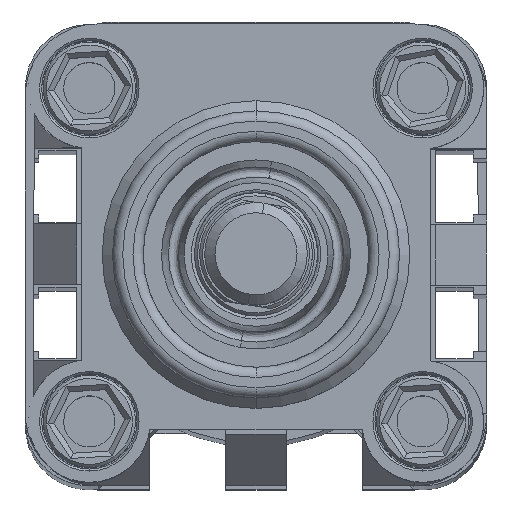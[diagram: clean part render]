
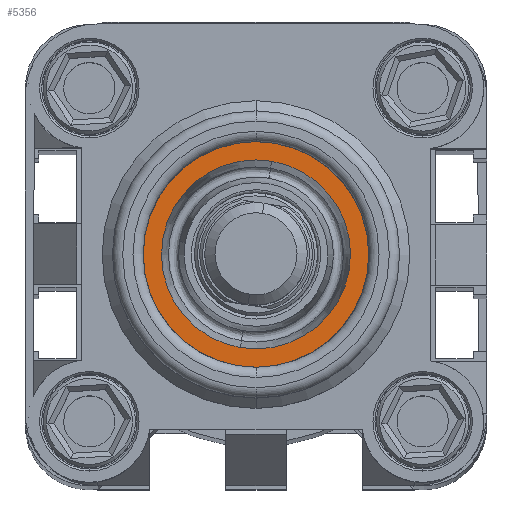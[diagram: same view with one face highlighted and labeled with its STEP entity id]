
A CAD part, top view. The second image highlights one B-rep face of the part: STEP entity #5356.
In plain terms, the highlighted planar face has unit normal (0, 0, 1) as drawn and (0, -1, 0) by its records, which use the part's own axes.
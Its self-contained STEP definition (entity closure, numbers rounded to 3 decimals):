
#134 = DIRECTION ( 'NONE',  ( 0., 0., 1. ) ) ;
#340 = CARTESIAN_POINT ( 'NONE',  ( 0., -10.4, -9.214 ) ) ;
#985 = CARTESIAN_POINT ( 'NONE',  ( 0., -10.4, 9.214 ) ) ;
#2066 = VERTEX_POINT ( 'NONE', #15269 ) ;
#2097 = DIRECTION ( 'NONE',  ( 0., 0., 1. ) ) ;
#2489 = CIRCLE ( 'NONE', #12558, 11. ) ;
#2905 = AXIS2_PLACEMENT_3D ( 'NONE', #18403, #7585, #14702 ) ;
#3972 = VERTEX_POINT ( 'NONE', #17938 ) ;
#4038 = DIRECTION ( 'NONE',  ( 0., 1., 0. ) ) ;
#4655 = CARTESIAN_POINT ( 'NONE',  ( -11., -10.4, 0. ) ) ;
#4687 = ORIENTED_EDGE ( 'NONE', *, *, #10721, .T. ) ;
#4784 = CARTESIAN_POINT ( 'NONE',  ( 0., -10.4, 0. ) ) ;
#5356 = ADVANCED_FACE ( 'NONE', ( #13244, #10700 ), #22734, .T. ) ;
#6172 = ORIENTED_EDGE ( 'NONE', *, *, #14440, .F. ) ;
#6302 = EDGE_CURVE ( 'NONE', #21400, #18273, #8632, .T. ) ;
#6720 = DIRECTION ( 'NONE',  ( 0., 1., 0. ) ) ;
#7327 = CIRCLE ( 'NONE', #2905, 9.214 ) ;
#7585 = DIRECTION ( 'NONE',  ( 0., 1., 0. ) ) ;
#7666 = AXIS2_PLACEMENT_3D ( 'NONE', #4655, #16247, #9033 ) ;
#7978 = AXIS2_PLACEMENT_3D ( 'NONE', #4784, #6720, #12068 ) ;
#8632 = CIRCLE ( 'NONE', #7978, 9.214 ) ;
#8711 = EDGE_LOOP ( 'NONE', ( #17084, #4687 ) ) ;
#9033 = DIRECTION ( 'NONE',  ( 0., 0., -1. ) ) ;
#9096 = ORIENTED_EDGE ( 'NONE', *, *, #18778, .F. ) ;
#10700 = FACE_OUTER_BOUND ( 'NONE', #17916, .T. ) ;
#10721 = EDGE_CURVE ( 'NONE', #18273, #21400, #7327, .T. ) ;
#11934 = AXIS2_PLACEMENT_3D ( 'NONE', #20222, #4038, #134 ) ;
#12068 = DIRECTION ( 'NONE',  ( 0., 0., -1. ) ) ;
#12558 = AXIS2_PLACEMENT_3D ( 'NONE', #20232, #18428, #2097 ) ;
#13244 = FACE_BOUND ( 'NONE', #8711, .T. ) ;
#14440 = EDGE_CURVE ( 'NONE', #3972, #2066, #21503, .T. ) ;
#14702 = DIRECTION ( 'NONE',  ( 0., 0., -1. ) ) ;
#15269 = CARTESIAN_POINT ( 'NONE',  ( 0., -10.4, -11. ) ) ;
#16247 = DIRECTION ( 'NONE',  ( 0., -1., 0. ) ) ;
#17084 = ORIENTED_EDGE ( 'NONE', *, *, #6302, .T. ) ;
#17916 = EDGE_LOOP ( 'NONE', ( #6172, #9096 ) ) ;
#17938 = CARTESIAN_POINT ( 'NONE',  ( 0., -10.4, 11. ) ) ;
#18273 = VERTEX_POINT ( 'NONE', #985 ) ;
#18403 = CARTESIAN_POINT ( 'NONE',  ( 0., -10.4, 0. ) ) ;
#18428 = DIRECTION ( 'NONE',  ( 0., 1., 0. ) ) ;
#18778 = EDGE_CURVE ( 'NONE', #2066, #3972, #2489, .T. ) ;
#20222 = CARTESIAN_POINT ( 'NONE',  ( 0., -10.4, 0. ) ) ;
#20232 = CARTESIAN_POINT ( 'NONE',  ( 0., -10.4, 0. ) ) ;
#21400 = VERTEX_POINT ( 'NONE', #340 ) ;
#21503 = CIRCLE ( 'NONE', #11934, 11. ) ;
#22734 = PLANE ( 'NONE',  #7666 ) ;
